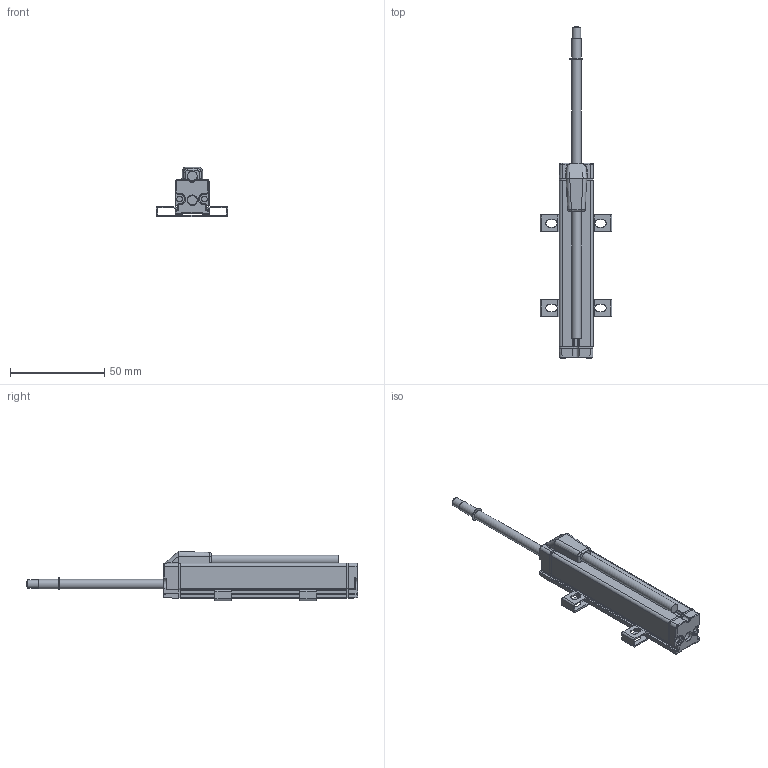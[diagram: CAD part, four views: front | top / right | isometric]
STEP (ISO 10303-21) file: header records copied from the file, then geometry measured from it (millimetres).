
FILE_DESCRIPTION(/* description */ (''),/* implementation_level */ '2;1');
FILE_NAME(/* name */ 'KTR3-50MM.stp',/* time_stamp */ '2021-03-02T11:00:45+08:00',/* author */ (''),/* organization */ (''),/* preprocessor_version */ 'ST-DEVELOPER v16',/* originating_system */ 'SIEMENS PLM Software NX 10.0',/* authorisation */ '');
FILE_SCHEMA (('AUTOMOTIVE_DESIGN { 1 0 10303 214 3 1 1 1 }'));
Length unit declared in the file: millimetre
Products named in the file (1): Admi1BD4EE42sxvf
Bounding box: 38 x 176.3 x 26.12 mm (x, y, z)
Volume: 22455.1 mm3; surface area: 23782.7 mm2
Topology: 10 solids, 10 shells, 640 faces, 1756 edges, 1127 vertices
Faces by surface type: plane 327, cylinder 222, bspline 42, cone 40, sphere 6, torus 3
Full cylindrical faces by diameter (mm): 2.5 x1, 3.2 x4, 4 x1, 4.5 x1, 5 x3, 5.5 x1
Entity records: 21044 total; most frequent: CARTESIAN_POINT 4740, ORIENTED_EDGE 3428, DIRECTION 3347, EDGE_CURVE 1714, AXIS2_PLACEMENT_3D 1142, VERTEX_POINT 1118, LINE 1063, VECTOR 1063
